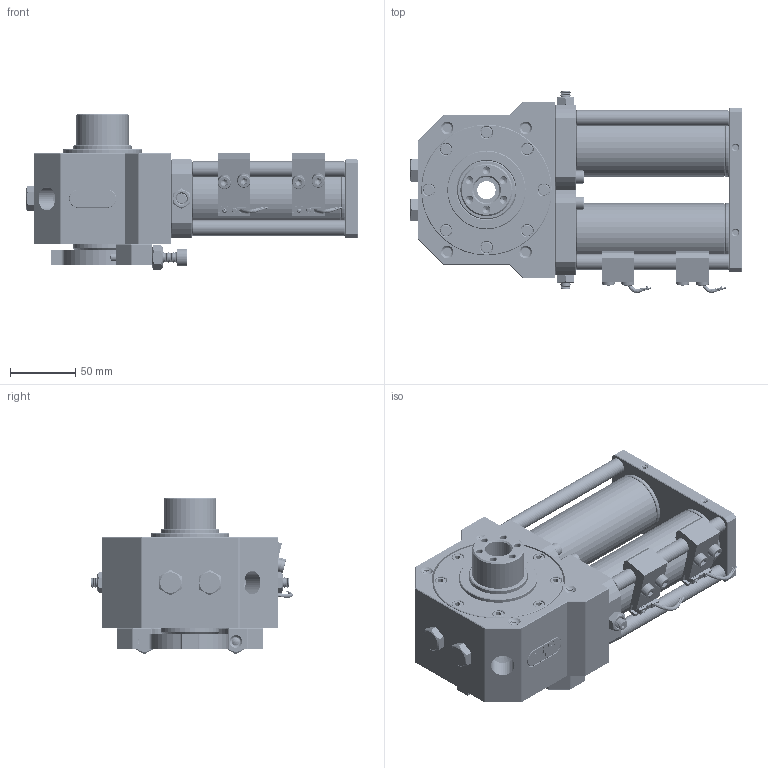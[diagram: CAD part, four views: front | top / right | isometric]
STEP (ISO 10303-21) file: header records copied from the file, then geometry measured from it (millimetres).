
FILE_DESCRIPTION((''),'2;1');
FILE_NAME('C:\Users\RND-KDY\Desktop\RJC40-90_190405.stp','2019-04-08T10:41:47',('RND-KDY'),(''),'Autodesk Inventor 2013','Autodesk Inventor 2013','');
FILE_SCHEMA(('AUTOMOTIVE_DESIGN { 1 0 10303 214 1 1 1 1 }'));
Length unit declared in the file: metre
Products named in the file (61): RJC40-90_190405; Part1; Part2; Part3; Part4; Part5; Part6; Part7; Part8; Part9; Part10; Part11; Part12; Part16; Part17; Part18; Part19; Part20; Part21; Part23; Part24; Part25; Part26; Part39; Part40; Part41; Part44; Part45; Part46; Part47; Part48; Part51; Part55; Part57; Part60; Part61; Part62; Part63; Part64; Part65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
Assembly tree (71 placements, depth 4):
  RJC40-90_190405
    Part1
    Part2
    Part3
    Part4
    Part5
    Part6
    Part7
    Part8
    Part9
    Part10
    Part11
    Part12
    Part16
    Part17
    Part18
    Part19
    Part20
    Part21
    Part23
    Part24
    Part25
    Part26
    Part39
    Part40
    Part41
    Part44
    Part45
    Part46  x2
    Part47
    Part48
    Part51
    Part55
    Part57
    Part60
    Part61
    Part62
    Part63
    Part64
    Part65
    부품85
    부품86
    ISO 4762 M6 x 10  x8
    조립품6
      Part67
      Text3D - www
      Text3D - RJC40-90-RS
      본체
      JRT
      Part60_1
    조립품9  x2
      어셈블리7_MIR
        HOUSING_MIR
        파트7_MIR
        Part51_MIR
        Part57_MIR
        Part57_1_MIR
        파트19_MIR
        3DM306_MIR
        파트30_MIR
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Bounding box: 254 x 154.4 x 119.81 mm (x, y, z)
Volume: 1468819.4 mm3; surface area: 305564.8 mm2
Topology: 101 solids, 101 shells, 6161 faces, 14420 edges, 8733 vertices
Faces by surface type: plane 4249, cone 968, cylinder 873, torus 51, sphere 14, bspline 6
Full cylindrical faces by diameter (mm): 2.1 x2, 2.6 x8, 2.8 x2, 3 x4, 3.12 x4, 3.8 x10, 4.134 x38, 4.16 x4, 4.917 x14, 5 x36, 6 x18, 6.5 x16, 6.614 x274, 8 x290, 8.268 x6, 8.5 x8, 9 x10, 10 x22, 10.2 x4, 11 x8, 12 x4, 13.6 x4, 14 x3, 18 x1, 18.449 x1, 20 x2, 30 x4, 40 x3, 45 x13, 50 x2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
Entity records: 156751 total; most frequent: CARTESIAN_POINT 27051, DIRECTION 25723, ORIENTED_EDGE 23752, EDGE_CURVE 11876, VECTOR 9807, LINE 9807, VERTEX_POINT 8170, AXIS2_PLACEMENT_3D 7958
